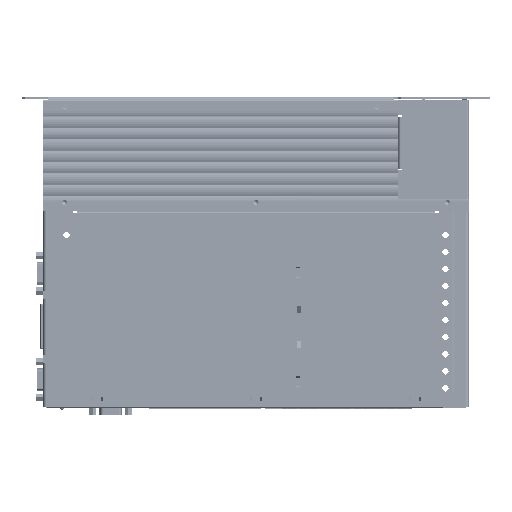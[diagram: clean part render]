
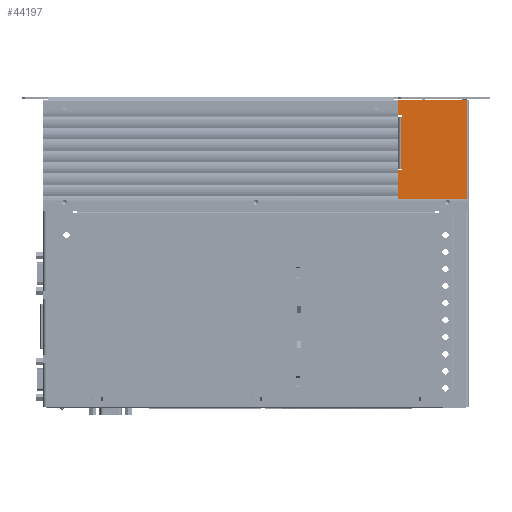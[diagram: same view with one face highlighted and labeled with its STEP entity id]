
A CAD part, front view. The second image highlights one B-rep face of the part: STEP entity #44197.
In plain terms, the highlighted planar face has unit normal (0, -1, 0) as drawn and (1, 0, 0) by its records, which use the part's own axes.
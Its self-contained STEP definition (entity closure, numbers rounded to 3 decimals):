
#43449 = EDGE_CURVE ( 'NONE', #43450, #43451, #143254, .T. ) ;
#43450 = VERTEX_POINT ( 'NONE', #143239 ) ;
#43451 = VERTEX_POINT ( 'NONE', #143237 ) ;
#43472 = VERTEX_POINT ( 'NONE', #143517 ) ;
#43475 = EDGE_CURVE ( 'NONE', #43476, #43472, #143509, .T. ) ;
#43476 = VERTEX_POINT ( 'NONE', #143499 ) ;
#44115 = VERTEX_POINT ( 'NONE', #144247 ) ;
#44117 = EDGE_CURVE ( 'NONE', #43472, #44115, #144244, .T. ) ;
#44124 = VERTEX_POINT ( 'NONE', #144193 ) ;
#44136 = EDGE_CURVE ( 'NONE', #43451, #43476, #144360, .T. ) ;
#44155 = VERTEX_POINT ( 'NONE', #144457 ) ;
#44158 = EDGE_CURVE ( 'NONE', #44173, #44155, #144452, .T. ) ;
#44173 = VERTEX_POINT ( 'NONE', #144510 ) ;
#44175 = EDGE_CURVE ( 'NONE', #44188, #44173, #144708, .T. ) ;
#44181 = EDGE_CURVE ( 'NONE', #44115, #44124, #144674, .T. ) ;
#44188 = VERTEX_POINT ( 'NONE', #144635 ) ;
#44190 = EDGE_CURVE ( 'NONE', #44124, #44188, #144623, .T. ) ;
#44194 = EDGE_CURVE ( 'NONE', #44212, #43450, #144821, .T. ) ;
#44197 = ADVANCED_FACE ( 'NONE', ( #144800 ), #144784, .T. ) ;
#44198 = EDGE_LOOP ( 'NONE', ( #44199, #44200, #44201, #44260, #44261, #44262, #44263, #44264, #44265, #44266, #44267, #44268 ) ) ;
#44199 = ORIENTED_EDGE ( 'NONE', *, *, #44194, .T. ) ;
#44200 = ORIENTED_EDGE ( 'NONE', *, *, #43449, .T. ) ;
#44201 = ORIENTED_EDGE ( 'NONE', *, *, #44136, .T. ) ;
#44205 = VERTEX_POINT ( 'NONE', #144760 ) ;
#44207 = EDGE_CURVE ( 'NONE', #44223, #44205, #144756, .T. ) ;
#44212 = VERTEX_POINT ( 'NONE', #144717 ) ;
#44214 = EDGE_CURVE ( 'NONE', #44205, #44212, #144933, .T. ) ;
#44223 = VERTEX_POINT ( 'NONE', #144907 ) ;
#44225 = EDGE_CURVE ( 'NONE', #44155, #44223, #144896, .T. ) ;
#44260 = ORIENTED_EDGE ( 'NONE', *, *, #43475, .T. ) ;
#44261 = ORIENTED_EDGE ( 'NONE', *, *, #44117, .T. ) ;
#44262 = ORIENTED_EDGE ( 'NONE', *, *, #44181, .T. ) ;
#44263 = ORIENTED_EDGE ( 'NONE', *, *, #44190, .T. ) ;
#44264 = ORIENTED_EDGE ( 'NONE', *, *, #44175, .T. ) ;
#44265 = ORIENTED_EDGE ( 'NONE', *, *, #44158, .T. ) ;
#44266 = ORIENTED_EDGE ( 'NONE', *, *, #44225, .T. ) ;
#44267 = ORIENTED_EDGE ( 'NONE', *, *, #44207, .T. ) ;
#44268 = ORIENTED_EDGE ( 'NONE', *, *, #44214, .T. ) ;
#143237 = CARTESIAN_POINT ( 'NONE',  ( 35., 20., -23. ) ) ;
#143239 = CARTESIAN_POINT ( 'NONE',  ( 35., 19., -23. ) ) ;
#143241 = DIRECTION ( 'NONE',  ( 0., 1., 0. ) ) ;
#143243 = VECTOR ( 'NONE', #143241, 1000. ) ;
#143246 = CARTESIAN_POINT ( 'NONE',  ( 35., 19., -23. ) ) ;
#143254 = LINE ( 'NONE', #143246, #143243 ) ;
#143499 = CARTESIAN_POINT ( 'NONE',  ( 35., 20., 14. ) ) ;
#143502 = DIRECTION ( 'NONE',  ( 0., -1., 0. ) ) ;
#143504 = VECTOR ( 'NONE', #143502, 1000. ) ;
#143507 = CARTESIAN_POINT ( 'NONE',  ( 35., 22., 14. ) ) ;
#143509 = LINE ( 'NONE', #143507, #143504 ) ;
#143517 = CARTESIAN_POINT ( 'NONE',  ( 35., 19., 14. ) ) ;
#144193 = CARTESIAN_POINT ( 'NONE',  ( 35., 22., 15. ) ) ;
#144238 = DIRECTION ( 'NONE',  ( 0., 0., 1. ) ) ;
#144240 = VECTOR ( 'NONE', #144238, 1000. ) ;
#144242 = CARTESIAN_POINT ( 'NONE',  ( 35., 19., 35. ) ) ;
#144244 = LINE ( 'NONE', #144242, #144240 ) ;
#144247 = CARTESIAN_POINT ( 'NONE',  ( 35., 19., 15. ) ) ;
#144357 = DIRECTION ( 'NONE',  ( 0., 0., 1. ) ) ;
#144358 = VECTOR ( 'NONE', #144357, 1000. ) ;
#144359 = CARTESIAN_POINT ( 'NONE',  ( 35., 20., 35. ) ) ;
#144360 = LINE ( 'NONE', #144359, #144358 ) ;
#144445 = DIRECTION ( 'NONE',  ( 0., 0., -1. ) ) ;
#144447 = VECTOR ( 'NONE', #144445, 1000. ) ;
#144450 = CARTESIAN_POINT ( 'NONE',  ( 35., -26.5, 35. ) ) ;
#144452 = LINE ( 'NONE', #144450, #144447 ) ;
#144457 = CARTESIAN_POINT ( 'NONE',  ( 35., -26.5, -35. ) ) ;
#144510 = CARTESIAN_POINT ( 'NONE',  ( 35., -26.5, 35. ) ) ;
#144618 = DIRECTION ( 'NONE',  ( 0., 0., 1. ) ) ;
#144620 = VECTOR ( 'NONE', #144618, 1000. ) ;
#144622 = CARTESIAN_POINT ( 'NONE',  ( 35., 22., 35. ) ) ;
#144623 = LINE ( 'NONE', #144622, #144620 ) ;
#144635 = CARTESIAN_POINT ( 'NONE',  ( 35., 22., 35. ) ) ;
#144668 = DIRECTION ( 'NONE',  ( 0., 1., 0. ) ) ;
#144670 = VECTOR ( 'NONE', #144668, 1000. ) ;
#144672 = CARTESIAN_POINT ( 'NONE',  ( 35., -28., 15. ) ) ;
#144674 = LINE ( 'NONE', #144672, #144670 ) ;
#144701 = DIRECTION ( 'NONE',  ( 0., -1., 0. ) ) ;
#144703 = VECTOR ( 'NONE', #144701, 1000. ) ;
#144705 = CARTESIAN_POINT ( 'NONE',  ( 35., -28., 35. ) ) ;
#144708 = LINE ( 'NONE', #144705, #144703 ) ;
#144717 = CARTESIAN_POINT ( 'NONE',  ( 35., 19., -24. ) ) ;
#144749 = DIRECTION ( 'NONE',  ( 0., 0., 1. ) ) ;
#144751 = VECTOR ( 'NONE', #144749, 1000. ) ;
#144753 = CARTESIAN_POINT ( 'NONE',  ( 35., 22., 35. ) ) ;
#144756 = LINE ( 'NONE', #144753, #144751 ) ;
#144760 = CARTESIAN_POINT ( 'NONE',  ( 35., 22., -24. ) ) ;
#144775 = DIRECTION ( 'NONE',  ( 0., 0., -1. ) ) ;
#144777 = DIRECTION ( 'NONE',  ( 1., 0., 0. ) ) ;
#144779 = CARTESIAN_POINT ( 'NONE',  ( 35., -28., 35. ) ) ;
#144782 = AXIS2_PLACEMENT_3D ( 'NONE', #144779, #144777, #144775 ) ;
#144784 = PLANE ( 'NONE',  #144782 ) ;
#144800 = FACE_OUTER_BOUND ( 'NONE', #44198, .T. ) ;
#144803 = DIRECTION ( 'NONE',  ( 0., 0., 1. ) ) ;
#144805 = VECTOR ( 'NONE', #144803, 1000. ) ;
#144807 = CARTESIAN_POINT ( 'NONE',  ( 35., 19., 35. ) ) ;
#144821 = LINE ( 'NONE', #144807, #144805 ) ;
#144891 = DIRECTION ( 'NONE',  ( 0., 1., 0. ) ) ;
#144892 = VECTOR ( 'NONE', #144891, 1000. ) ;
#144894 = CARTESIAN_POINT ( 'NONE',  ( 35., -28., -35. ) ) ;
#144896 = LINE ( 'NONE', #144894, #144892 ) ;
#144907 = CARTESIAN_POINT ( 'NONE',  ( 35., 22., -35. ) ) ;
#144930 = DIRECTION ( 'NONE',  ( 0., -1., 0. ) ) ;
#144931 = VECTOR ( 'NONE', #144930, 1000. ) ;
#144932 = CARTESIAN_POINT ( 'NONE',  ( 35., -28., -24. ) ) ;
#144933 = LINE ( 'NONE', #144932, #144931 ) ;
